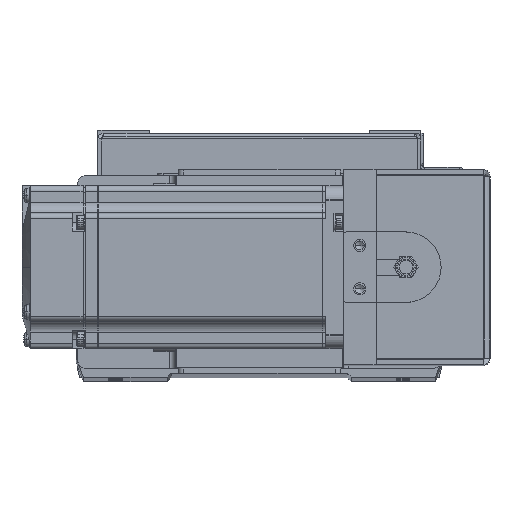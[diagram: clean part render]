
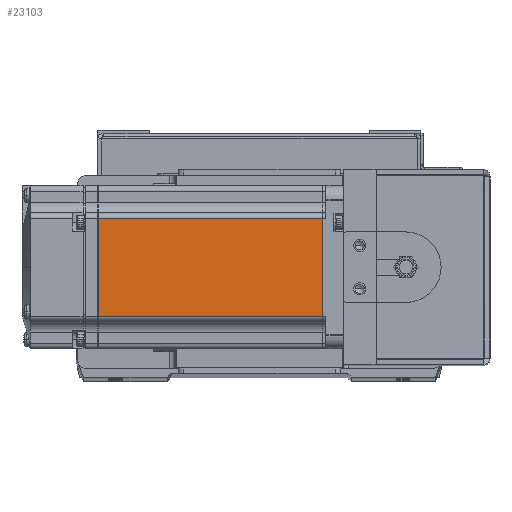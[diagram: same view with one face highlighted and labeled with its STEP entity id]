
A CAD part, top view. The second image highlights one B-rep face of the part: STEP entity #23103.
In plain terms, the highlighted planar face has unit normal (0, 0, 1).
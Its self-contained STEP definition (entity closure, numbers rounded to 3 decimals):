
#454 = VECTOR ( 'NONE', #29392, 1000. ) ;
#2645 = CARTESIAN_POINT ( 'NONE',  ( -7.75, 18., 30. ) ) ;
#2794 = DIRECTION ( 'NONE',  ( 0., 0., 1. ) ) ;
#2983 = FACE_OUTER_BOUND ( 'NONE', #4250, .T. ) ;
#3374 = CARTESIAN_POINT ( 'NONE',  ( -7.75, -18., 30. ) ) ;
#4206 = EDGE_CURVE ( 'NONE', #31697, #18210, #18017, .T. ) ;
#4250 = EDGE_LOOP ( 'NONE', ( #26780, #35535, #23311, #9619 ) ) ;
#4992 = AXIS2_PLACEMENT_3D ( 'NONE', #34756, #2794, #8485 ) ;
#6266 = VECTOR ( 'NONE', #33354, 1000. ) ;
#6764 = LINE ( 'NONE', #17794, #454 ) ;
#6998 = EDGE_CURVE ( 'NONE', #21579, #27981, #28700, .T. ) ;
#8485 = DIRECTION ( 'NONE',  ( 1., 0., 0. ) ) ;
#8924 = CARTESIAN_POINT ( 'NONE',  ( -7.75, 0., 30. ) ) ;
#9619 = ORIENTED_EDGE ( 'NONE', *, *, #20993, .F. ) ;
#11737 = VECTOR ( 'NONE', #12123, 1000. ) ;
#12123 = DIRECTION ( 'NONE',  ( 0., -1., 0. ) ) ;
#15727 = CARTESIAN_POINT ( 'NONE',  ( -90.45, 0., 30. ) ) ;
#16224 = CARTESIAN_POINT ( 'NONE',  ( -6.5, 18., 30. ) ) ;
#17794 = CARTESIAN_POINT ( 'NONE',  ( -6.5, -18., 30. ) ) ;
#18017 = LINE ( 'NONE', #15727, #20644 ) ;
#18210 = VERTEX_POINT ( 'NONE', #19438 ) ;
#19438 = CARTESIAN_POINT ( 'NONE',  ( -90.45, -18., 30. ) ) ;
#20644 = VECTOR ( 'NONE', #33038, 1000. ) ;
#20993 = EDGE_CURVE ( 'NONE', #27981, #18210, #6764, .T. ) ;
#21579 = VERTEX_POINT ( 'NONE', #2645 ) ;
#23103 = ADVANCED_FACE ( 'NONE', ( #2983 ), #32265, .T. ) ;
#23311 = ORIENTED_EDGE ( 'NONE', *, *, #4206, .T. ) ;
#23845 = EDGE_CURVE ( 'NONE', #21579, #31697, #36783, .T. ) ;
#26780 = ORIENTED_EDGE ( 'NONE', *, *, #6998, .F. ) ;
#27981 = VERTEX_POINT ( 'NONE', #3374 ) ;
#28700 = LINE ( 'NONE', #8924, #11737 ) ;
#29392 = DIRECTION ( 'NONE',  ( -1., 0., 0. ) ) ;
#31697 = VERTEX_POINT ( 'NONE', #36015 ) ;
#32265 = PLANE ( 'NONE',  #4992 ) ;
#33038 = DIRECTION ( 'NONE',  ( 0., -1., 0. ) ) ;
#33354 = DIRECTION ( 'NONE',  ( -1., 0., 0. ) ) ;
#34756 = CARTESIAN_POINT ( 'NONE',  ( -6.5, -25., 30. ) ) ;
#35535 = ORIENTED_EDGE ( 'NONE', *, *, #23845, .T. ) ;
#36015 = CARTESIAN_POINT ( 'NONE',  ( -90.45, 18., 30. ) ) ;
#36783 = LINE ( 'NONE', #16224, #6266 ) ;
